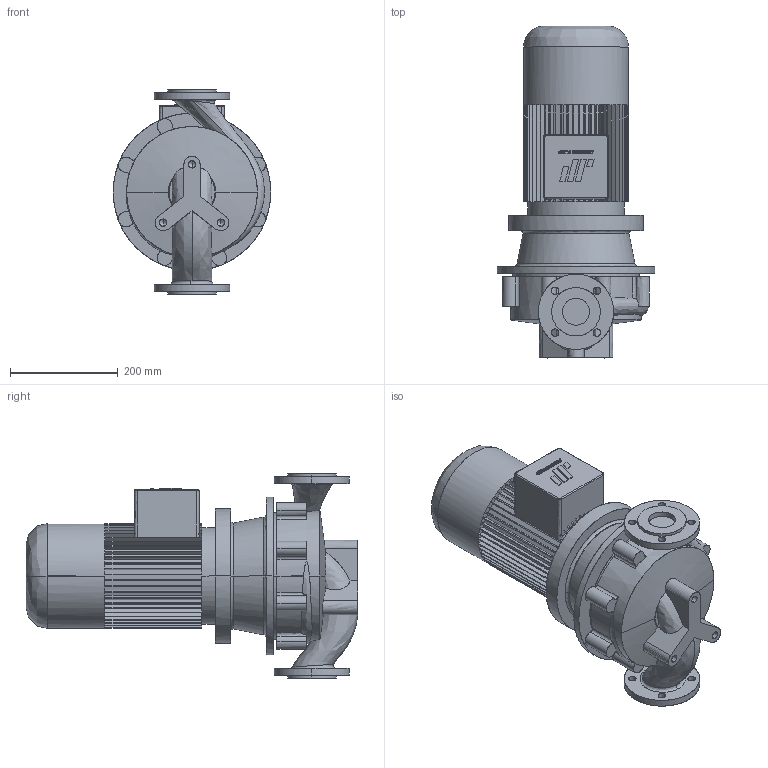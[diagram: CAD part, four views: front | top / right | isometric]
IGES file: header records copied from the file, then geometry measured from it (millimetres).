
Start section: CombiLine
Global section: file name: CLB_50-200_IEC100L.igs; native system:  By UGS Corp.; preprocessor: XPlus GENERIC/IGES 3.0; author: Stageplaats; organization: Johnson Pump Water B.V.; date: 20070713.131247; units: millimetre
Bounding box: 293 x 616.5 x 380 mm (x, y, z)
Surface area: 882557.2 mm2 (no closed solid volume)
Topology: 0 solids, 0 shells, 667 faces, 3836 edges, 3830 vertices
Faces by surface type: bspline 667
